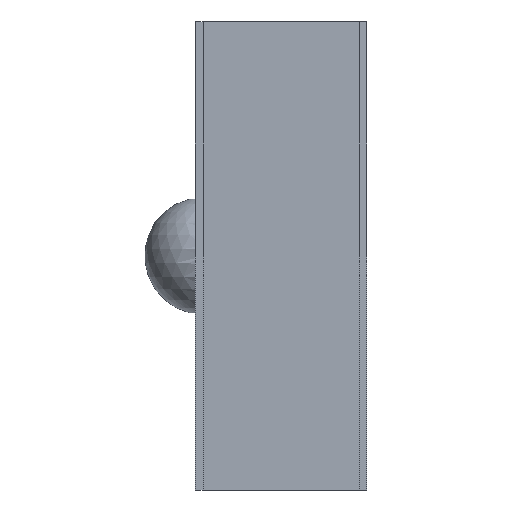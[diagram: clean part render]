
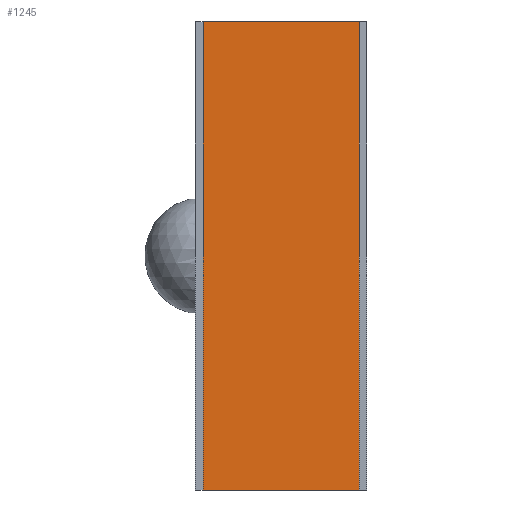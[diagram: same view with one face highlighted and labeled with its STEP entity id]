
A CAD part, front view. The second image highlights one B-rep face of the part: STEP entity #1245.
In plain terms, the highlighted planar face has unit normal (0, -1, 0).
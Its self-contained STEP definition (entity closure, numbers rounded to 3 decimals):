
#40 = VERTEX_POINT('',#41);
#41 = CARTESIAN_POINT('',(0.,-34.,12.));
#50 = PLANE('',#51);
#51 = AXIS2_PLACEMENT_3D('',#52,#53,#54);
#52 = CARTESIAN_POINT('',(0.,-34.,0.));
#53 = DIRECTION('',(1.,0.,-0.));
#54 = DIRECTION('',(0.,0.,1.));
#62 = PLANE('',#63);
#63 = AXIS2_PLACEMENT_3D('',#64,#65,#66);
#64 = CARTESIAN_POINT('',(0.,-34.,12.));
#65 = DIRECTION('',(0.,0.,1.));
#66 = DIRECTION('',(1.,0.,-0.));
#74 = EDGE_CURVE('',#75,#40,#77,.T.);
#75 = VERTEX_POINT('',#76);
#76 = CARTESIAN_POINT('',(0.,-34.,0.));
#77 = SURFACE_CURVE('',#78,(#82,#89),.PCURVE_S1.);
#78 = LINE('',#79,#80);
#79 = CARTESIAN_POINT('',(0.,-34.,0.));
#80 = VECTOR('',#81,1.);
#81 = DIRECTION('',(0.,0.,1.));
#82 = PCURVE('',#50,#83);
#83 = DEFINITIONAL_REPRESENTATION('',(#84),#88);
#84 = LINE('',#85,#86);
#85 = CARTESIAN_POINT('',(0.,0.));
#86 = VECTOR('',#87,1.);
#87 = DIRECTION('',(1.,0.));
#88 = ( GEOMETRIC_REPRESENTATION_CONTEXT(2) 
PARAMETRIC_REPRESENTATION_CONTEXT() REPRESENTATION_CONTEXT('2D SPACE',''
  ) );
#89 = PCURVE('',#90,#95);
#90 = PLANE('',#91);
#91 = AXIS2_PLACEMENT_3D('',#92,#93,#94);
#92 = CARTESIAN_POINT('',(0.,-34.,0.));
#93 = DIRECTION('',(-0.,1.,0.));
#94 = DIRECTION('',(0.,0.,1.));
#95 = DEFINITIONAL_REPRESENTATION('',(#96),#100);
#96 = LINE('',#97,#98);
#97 = CARTESIAN_POINT('',(0.,0.));
#98 = VECTOR('',#99,1.);
#99 = DIRECTION('',(1.,0.));
#100 = ( GEOMETRIC_REPRESENTATION_CONTEXT(2) 
PARAMETRIC_REPRESENTATION_CONTEXT() REPRESENTATION_CONTEXT('2D SPACE',''
  ) );
#118 = PLANE('',#119);
#119 = AXIS2_PLACEMENT_3D('',#120,#121,#122);
#120 = CARTESIAN_POINT('',(0.,-34.,0.));
#121 = DIRECTION('',(0.,0.,1.));
#122 = DIRECTION('',(1.,0.,-0.));
#158 = EDGE_CURVE('',#40,#159,#161,.T.);
#159 = VERTEX_POINT('',#160);
#160 = CARTESIAN_POINT('',(4.,-34.,12.));
#161 = SURFACE_CURVE('',#162,(#166,#173),.PCURVE_S1.);
#162 = LINE('',#163,#164);
#163 = CARTESIAN_POINT('',(0.,-34.,12.));
#164 = VECTOR('',#165,1.);
#165 = DIRECTION('',(1.,0.,-0.));
#166 = PCURVE('',#62,#167);
#167 = DEFINITIONAL_REPRESENTATION('',(#168),#172);
#168 = LINE('',#169,#170);
#169 = CARTESIAN_POINT('',(0.,0.));
#170 = VECTOR('',#171,1.);
#171 = DIRECTION('',(1.,0.));
#172 = ( GEOMETRIC_REPRESENTATION_CONTEXT(2) 
PARAMETRIC_REPRESENTATION_CONTEXT() REPRESENTATION_CONTEXT('2D SPACE',''
  ) );
#173 = PCURVE('',#90,#174);
#174 = DEFINITIONAL_REPRESENTATION('',(#175),#179);
#175 = LINE('',#176,#177);
#176 = CARTESIAN_POINT('',(12.,0.));
#177 = VECTOR('',#178,1.);
#178 = DIRECTION('',(0.,1.));
#179 = ( GEOMETRIC_REPRESENTATION_CONTEXT(2) 
PARAMETRIC_REPRESENTATION_CONTEXT() REPRESENTATION_CONTEXT('2D SPACE',''
  ) );
#197 = PLANE('',#198);
#198 = AXIS2_PLACEMENT_3D('',#199,#200,#201);
#199 = CARTESIAN_POINT('',(4.,-34.,0.));
#200 = DIRECTION('',(1.,0.,-0.));
#201 = DIRECTION('',(0.,0.,1.));
#786 = EDGE_CURVE('',#75,#787,#789,.T.);
#787 = VERTEX_POINT('',#788);
#788 = CARTESIAN_POINT('',(4.,-34.,0.));
#789 = SURFACE_CURVE('',#790,(#794,#801),.PCURVE_S1.);
#790 = LINE('',#791,#792);
#791 = CARTESIAN_POINT('',(0.,-34.,0.));
#792 = VECTOR('',#793,1.);
#793 = DIRECTION('',(1.,0.,-0.));
#794 = PCURVE('',#118,#795);
#795 = DEFINITIONAL_REPRESENTATION('',(#796),#800);
#796 = LINE('',#797,#798);
#797 = CARTESIAN_POINT('',(0.,0.));
#798 = VECTOR('',#799,1.);
#799 = DIRECTION('',(1.,0.));
#800 = ( GEOMETRIC_REPRESENTATION_CONTEXT(2) 
PARAMETRIC_REPRESENTATION_CONTEXT() REPRESENTATION_CONTEXT('2D SPACE',''
  ) );
#801 = PCURVE('',#90,#802);
#802 = DEFINITIONAL_REPRESENTATION('',(#803),#807);
#803 = LINE('',#804,#805);
#804 = CARTESIAN_POINT('',(0.,0.));
#805 = VECTOR('',#806,1.);
#806 = DIRECTION('',(0.,1.));
#807 = ( GEOMETRIC_REPRESENTATION_CONTEXT(2) 
PARAMETRIC_REPRESENTATION_CONTEXT() REPRESENTATION_CONTEXT('2D SPACE',''
  ) );
#1245 = ADVANCED_FACE('',(#1246),#90,.F.);
#1246 = FACE_BOUND('',#1247,.F.);
#1247 = EDGE_LOOP('',(#1248,#1249,#1250,#1251));
#1248 = ORIENTED_EDGE('',*,*,#786,.F.);
#1249 = ORIENTED_EDGE('',*,*,#74,.T.);
#1250 = ORIENTED_EDGE('',*,*,#158,.T.);
#1251 = ORIENTED_EDGE('',*,*,#1252,.F.);
#1252 = EDGE_CURVE('',#787,#159,#1253,.T.);
#1253 = SURFACE_CURVE('',#1254,(#1258,#1265),.PCURVE_S1.);
#1254 = LINE('',#1255,#1256);
#1255 = CARTESIAN_POINT('',(4.,-34.,0.));
#1256 = VECTOR('',#1257,1.);
#1257 = DIRECTION('',(0.,0.,1.));
#1258 = PCURVE('',#90,#1259);
#1259 = DEFINITIONAL_REPRESENTATION('',(#1260),#1264);
#1260 = LINE('',#1261,#1262);
#1261 = CARTESIAN_POINT('',(0.,4.));
#1262 = VECTOR('',#1263,1.);
#1263 = DIRECTION('',(1.,0.));
#1264 = ( GEOMETRIC_REPRESENTATION_CONTEXT(2) 
PARAMETRIC_REPRESENTATION_CONTEXT() REPRESENTATION_CONTEXT('2D SPACE',''
  ) );
#1265 = PCURVE('',#197,#1266);
#1266 = DEFINITIONAL_REPRESENTATION('',(#1267),#1271);
#1267 = LINE('',#1268,#1269);
#1268 = CARTESIAN_POINT('',(0.,0.));
#1269 = VECTOR('',#1270,1.);
#1270 = DIRECTION('',(1.,0.));
#1271 = ( GEOMETRIC_REPRESENTATION_CONTEXT(2) 
PARAMETRIC_REPRESENTATION_CONTEXT() REPRESENTATION_CONTEXT('2D SPACE',''
  ) );
